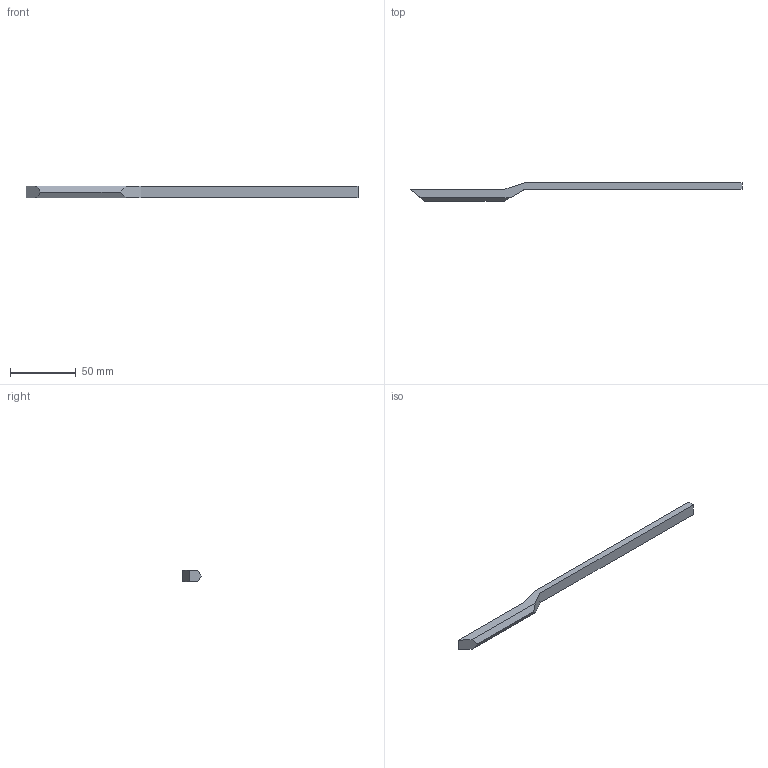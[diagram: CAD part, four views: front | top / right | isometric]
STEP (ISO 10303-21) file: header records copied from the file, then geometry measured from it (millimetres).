
FILE_DESCRIPTION(('FreeCAD Model'),'2;1');
FILE_NAME('Open CASCADE Shape Model','2025-04-03T05:04:37',(''),(''), 'Open CASCADE STEP processor 7.8','FreeCAD','Unknown');
FILE_SCHEMA(('AUTOMOTIVE_DESIGN { 1 0 10303 214 1 1 1 1 }'));
Length unit declared in the file: millimetre
Products named in the file (1): Common
Bounding box: 251.98 x 14.08 x 9 mm (x, y, z)
Volume: 13148.3 mm3; surface area: 7472.7 mm2
Topology: 1 solids, 1 shells, 11 faces, 27 edges, 18 vertices
Faces by surface type: plane 11
Entity records: 343 total; most frequent: CARTESIAN_POINT 57, ORIENTED_EDGE 54, DIRECTION 51, EDGE_CURVE 27, LINE 27, VECTOR 27, VERTEX_POINT 18, AXIS2_PLACEMENT_3D 12
